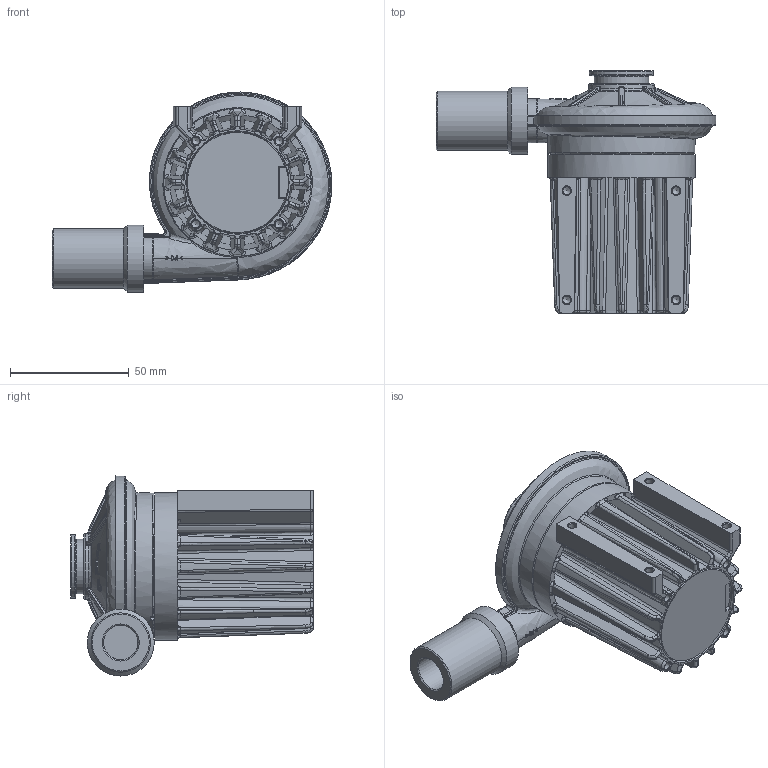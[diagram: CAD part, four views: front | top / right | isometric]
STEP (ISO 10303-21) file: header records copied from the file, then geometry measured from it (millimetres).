
FILE_DESCRIPTION(/* description */ (''),/* implementation_level */ '2;1');
FILE_NAME(/* name */ 'U85HL-024KH-52.stp',/* time_stamp */ '2024-06-10T15:45:37+02:00',/* author */ (''),/* organization */ (''),/* preprocessor_version */ 'ST-DEVELOPER v16.7',/* originating_system */ 'SIEMENS PLM Software NX 1946',/* authorisation */ '');
FILE_SCHEMA (('AUTOMOTIVE_DESIGN { 1 0 10303 214 3 1 1 1 }'));
Products named in the file (1): 021696_1-U85HL-024KH-52_simple _-_
Bounding box: 117.75 x 102 x 84.21 mm (x, y, z)
Volume: 261667.9 mm3; surface area: 50785.2 mm2
Topology: 1 solids, 1 shells, 1241 faces, 3123 edges, 1882 vertices
Faces by surface type: bspline 399, plane 349, cylinder 293, cone 117, torus 54, sphere 28, revolution 1
Full cylindrical faces by diameter (mm): 3.3 x8, 14.5 x1, 14.6 x1, 18.5 x1, 23 x1, 24 x1, 24.2 x2, 25 x1, 25.9 x1, 27 x1, 28.2 x1, 43 x1, 56.6 x1, 62 x1
Entity records: 53930 total; most frequent: CARTESIAN_POINT 29320, ORIENTED_EDGE 5992, DIRECTION 3614, EDGE_CURVE 2996, VERTEX_POINT 1849, B_SPLINE_CURVE_WITH_KNOTS 1593, AXIS2_PLACEMENT_3D 1418, EDGE_LOOP 1325
